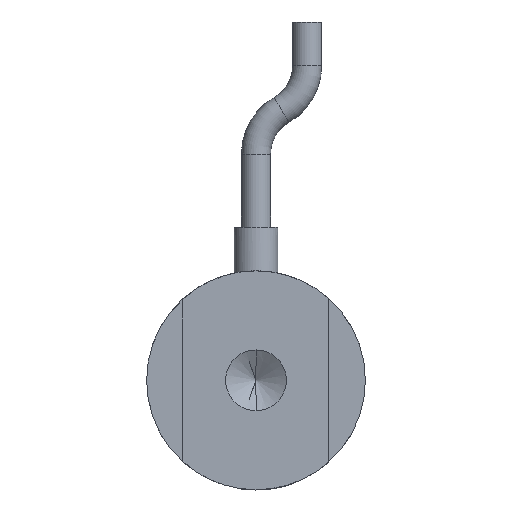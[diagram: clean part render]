
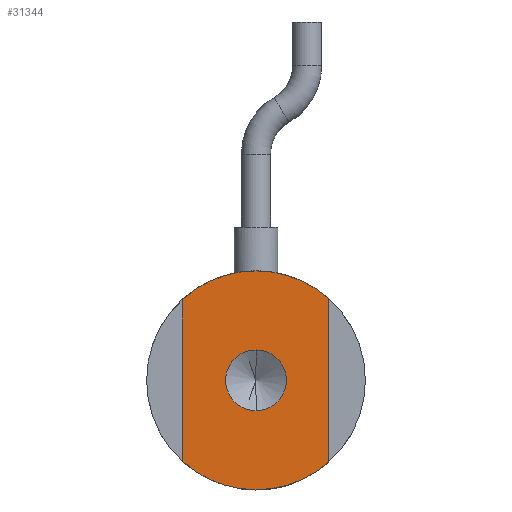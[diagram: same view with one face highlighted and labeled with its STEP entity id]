
A CAD part, front view. The second image highlights one B-rep face of the part: STEP entity #31344.
In plain terms, the highlighted planar face has unit normal (0, -1, 0).
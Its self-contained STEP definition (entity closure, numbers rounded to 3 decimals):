
#263 = CARTESIAN_POINT ( 'NONE',  ( -3., 4.688, -3.249 ) ) ;
#744 = CIRCLE ( 'NONE', #38112, 4.5 ) ;
#920 = FACE_OUTER_BOUND ( 'NONE', #38348, .T. ) ;
#1075 = CARTESIAN_POINT ( 'NONE',  ( -3., 4.688, 3.447 ) ) ;
#2192 = DIRECTION ( 'NONE',  ( 0., 0., 1. ) ) ;
#2489 = CARTESIAN_POINT ( 'NONE',  ( 3., 4.688, -16.289 ) ) ;
#3141 = VERTEX_POINT ( 'NONE', #1075 ) ;
#3579 = DIRECTION ( 'NONE',  ( 0., 1., 0. ) ) ;
#4313 = DIRECTION ( 'NONE',  ( 0., 1., 0. ) ) ;
#5295 = ORIENTED_EDGE ( 'NONE', *, *, #19374, .F. ) ;
#5377 = CIRCLE ( 'NONE', #25705, 1.25 ) ;
#5928 = EDGE_CURVE ( 'NONE', #15142, #24162, #17718, .T. ) ;
#6142 = EDGE_CURVE ( 'NONE', #3141, #24162, #12712, .T. ) ;
#6683 = CARTESIAN_POINT ( 'NONE',  ( 0.007, 4.688, 0.099 ) ) ;
#6948 = DIRECTION ( 'NONE',  ( 0., -1., 0. ) ) ;
#9119 = CARTESIAN_POINT ( 'NONE',  ( 0.007, 4.688, -1.151 ) ) ;
#9859 = CARTESIAN_POINT ( 'NONE',  ( 0.007, 4.688, 0.099 ) ) ;
#9909 = DIRECTION ( 'NONE',  ( 0., 0., -1. ) ) ;
#10164 = CARTESIAN_POINT ( 'NONE',  ( -3., 4.688, -16.289 ) ) ;
#10853 = CARTESIAN_POINT ( 'NONE',  ( 3., 4.688, 3.459 ) ) ;
#11767 = EDGE_CURVE ( 'NONE', #33458, #13131, #39026, .T. ) ;
#12712 = LINE ( 'NONE', #10164, #28651 ) ;
#13059 = DIRECTION ( 'NONE',  ( 0., 0., 1. ) ) ;
#13131 = VERTEX_POINT ( 'NONE', #10853 ) ;
#13432 = CIRCLE ( 'NONE', #37769, 4.5 ) ;
#14695 = ORIENTED_EDGE ( 'NONE', *, *, #20247, .T. ) ;
#14887 = EDGE_LOOP ( 'NONE', ( #33098, #27662 ) ) ;
#15142 = VERTEX_POINT ( 'NONE', #39532 ) ;
#15347 = AXIS2_PLACEMENT_3D ( 'NONE', #23374, #4313, #26539 ) ;
#16548 = EDGE_CURVE ( 'NONE', #34370, #27736, #34983, .T. ) ;
#16798 = FACE_BOUND ( 'NONE', #14887, .T. ) ;
#17718 = CIRCLE ( 'NONE', #30459, 4.5 ) ;
#18756 = DIRECTION ( 'NONE',  ( 0., 1., 0. ) ) ;
#19369 = VECTOR ( 'NONE', #24689, 1000. ) ;
#19374 = EDGE_CURVE ( 'NONE', #3141, #33458, #13432, .T. ) ;
#20247 = EDGE_CURVE ( 'NONE', #32998, #13131, #27860, .T. ) ;
#21229 = DIRECTION ( 'NONE',  ( 0., 1., 0. ) ) ;
#22625 = PLANE ( 'NONE',  #33197 ) ;
#22900 = EDGE_CURVE ( 'NONE', #27736, #34370, #5377, .T. ) ;
#23206 = CARTESIAN_POINT ( 'NONE',  ( 3., 4.688, -3.262 ) ) ;
#23374 = CARTESIAN_POINT ( 'NONE',  ( 0.007, 4.688, 0.099 ) ) ;
#23694 = ORIENTED_EDGE ( 'NONE', *, *, #6142, .T. ) ;
#23905 = CARTESIAN_POINT ( 'NONE',  ( 0.007, 4.688, 4.599 ) ) ;
#24162 = VERTEX_POINT ( 'NONE', #263 ) ;
#24552 = ORIENTED_EDGE ( 'NONE', *, *, #11767, .F. ) ;
#24689 = DIRECTION ( 'NONE',  ( 0., 0., 1. ) ) ;
#24899 = ORIENTED_EDGE ( 'NONE', *, *, #37142, .F. ) ;
#25705 = AXIS2_PLACEMENT_3D ( 'NONE', #25989, #6948, #29203 ) ;
#25809 = DIRECTION ( 'NONE',  ( 0., 0., 1. ) ) ;
#25989 = CARTESIAN_POINT ( 'NONE',  ( 0.007, 4.688, 0.099 ) ) ;
#26539 = DIRECTION ( 'NONE',  ( 0., 0., 1. ) ) ;
#27662 = ORIENTED_EDGE ( 'NONE', *, *, #16548, .F. ) ;
#27736 = VERTEX_POINT ( 'NONE', #9119 ) ;
#27860 = LINE ( 'NONE', #2489, #19369 ) ;
#28651 = VECTOR ( 'NONE', #32303, 1000. ) ;
#28951 = DIRECTION ( 'NONE',  ( 0., -1., 0. ) ) ;
#29203 = DIRECTION ( 'NONE',  ( 0., 0., -1. ) ) ;
#30459 = AXIS2_PLACEMENT_3D ( 'NONE', #37907, #18756, #41082 ) ;
#31034 = CARTESIAN_POINT ( 'NONE',  ( 0.007, 4.688, 1.349 ) ) ;
#31344 = ADVANCED_FACE ( 'NONE', ( #16798, #920 ), #22625, .F. ) ;
#32119 = DIRECTION ( 'NONE',  ( 0., 1., 0. ) ) ;
#32303 = DIRECTION ( 'NONE',  ( 0., 0., -1. ) ) ;
#32998 = VERTEX_POINT ( 'NONE', #23206 ) ;
#33098 = ORIENTED_EDGE ( 'NONE', *, *, #22900, .F. ) ;
#33197 = AXIS2_PLACEMENT_3D ( 'NONE', #35375, #3579, #25809 ) ;
#33458 = VERTEX_POINT ( 'NONE', #23905 ) ;
#34370 = VERTEX_POINT ( 'NONE', #31034 ) ;
#34983 = CIRCLE ( 'NONE', #39005, 1.25 ) ;
#35375 = CARTESIAN_POINT ( 'NONE',  ( 0.007, 4.688, 0.099 ) ) ;
#37142 = EDGE_CURVE ( 'NONE', #32998, #15142, #744, .T. ) ;
#37769 = AXIS2_PLACEMENT_3D ( 'NONE', #40356, #21229, #2192 ) ;
#37907 = CARTESIAN_POINT ( 'NONE',  ( 0.007, 4.688, 0.099 ) ) ;
#38004 = ORIENTED_EDGE ( 'NONE', *, *, #5928, .F. ) ;
#38112 = AXIS2_PLACEMENT_3D ( 'NONE', #9859, #32119, #13059 ) ;
#38348 = EDGE_LOOP ( 'NONE', ( #14695, #24552, #5295, #23694, #38004, #24899 ) ) ;
#39005 = AXIS2_PLACEMENT_3D ( 'NONE', #6683, #28951, #9909 ) ;
#39026 = CIRCLE ( 'NONE', #15347, 4.5 ) ;
#39532 = CARTESIAN_POINT ( 'NONE',  ( 0.007, 4.688, -4.401 ) ) ;
#40356 = CARTESIAN_POINT ( 'NONE',  ( 0.007, 4.688, 0.099 ) ) ;
#41082 = DIRECTION ( 'NONE',  ( 0., 0., 1. ) ) ;
